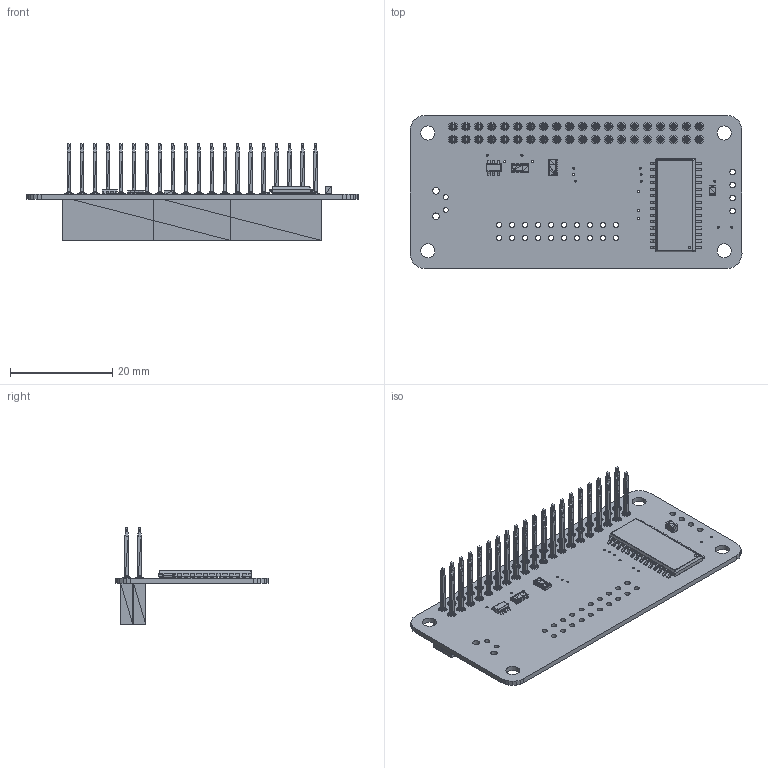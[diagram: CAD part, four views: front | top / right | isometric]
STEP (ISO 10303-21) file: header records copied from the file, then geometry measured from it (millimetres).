
FILE_DESCRIPTION(('for SolidWorks'),'2;1');
FILE_NAME('C:\Users\andrew\Desktop\io-pi-zero-2.0.step', '2018-08-25T20:08:08',('andrew'),(''), 'Open CASCADE STEP processor 6.6','DipTrace','Unknown');
FILE_SCHEMA(('AUTOMOTIVE_DESIGN { 1 0 10303 214 1 1 1 1 }'));
Length unit declared in the file: millimetre
Products named in the file (7): PCB_io-pi-zero-2.0; Board_io-pi-zero-2.0; sot23-6; soic-28_300mil; cap_0805; rescav-8_1.6x3.2x0.8; 40_way_header
Assembly tree (7 placements, depth 2):
  PCB_io-pi-zero-2.0
    Board_io-pi-zero-2.0
    sot23-6
    soic-28_300mil
    cap_0805
    rescav-8_1.6x3.2x0.8  x2
    40_way_header
Bounding box: 65 x 30 x 18.97 mm (x, y, z)
Volume: 1863.2 mm3; surface area: 9379.8 mm2
Topology: 2 solids, 163 shells, 27461 faces, 41592 edges, 14438 vertices
Faces by surface type: plane 27152, bspline 170, cylinder 135, sphere 4
Full cylindrical faces by diameter (mm): 0.406 x26, 0.5 x1, 1 x62, 1.1 x4, 1.3 x2, 2.75 x4
Entity records: 685774 total; most frequent: DIRECTION 89336, CARTESIAN_POINT 81995, ORIENTED_EDGE 77508, EDGE_CURVE 38762, LINE 38006, VECTOR 38006, FACE_BOUND 25782, EDGE_LOOP 25782
